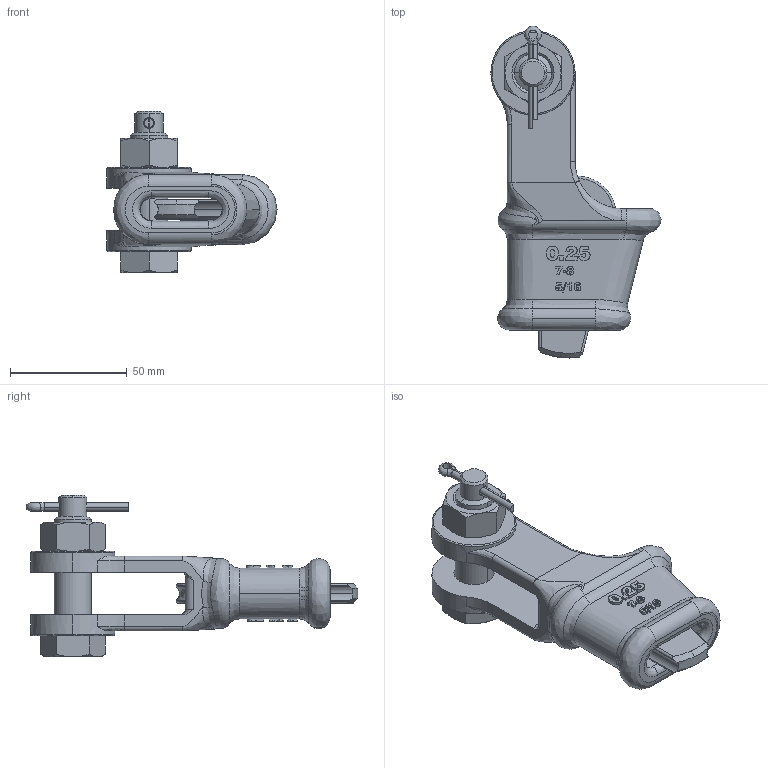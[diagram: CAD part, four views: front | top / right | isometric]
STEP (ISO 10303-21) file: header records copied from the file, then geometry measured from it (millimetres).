
FILE_DESCRIPTION(('STEP AP203'),'1');
FILE_NAME('skgow008sb.stp','2024-01-18T09:48:43',('TraceParts'),('TraceParts S.A.'),'Spatial InterOp 3D',' ',' ');
FILE_SCHEMA(('CONFIG_CONTROL_DESIGN'));
Length unit declared in the file: millimetre
Products named in the file (1): 1
Bounding box: 72.78 x 141.91 x 69 mm (x, y, z)
Volume: 115259 mm3; surface area: 40602.9 mm2
Topology: 5 solids, 5 shells, 602 faces, 1626 edges, 1070 vertices
Faces by surface type: plane 239, bspline 208, cylinder 124, cone 31
Entity records: 35566 total; most frequent: CARTESIAN_POINT 22112, ORIENTED_EDGE 3252, DIRECTION 2022, EDGE_CURVE 1626, VERTEX_POINT 1070, LINE 738, VECTOR 738, EDGE_LOOP 650
